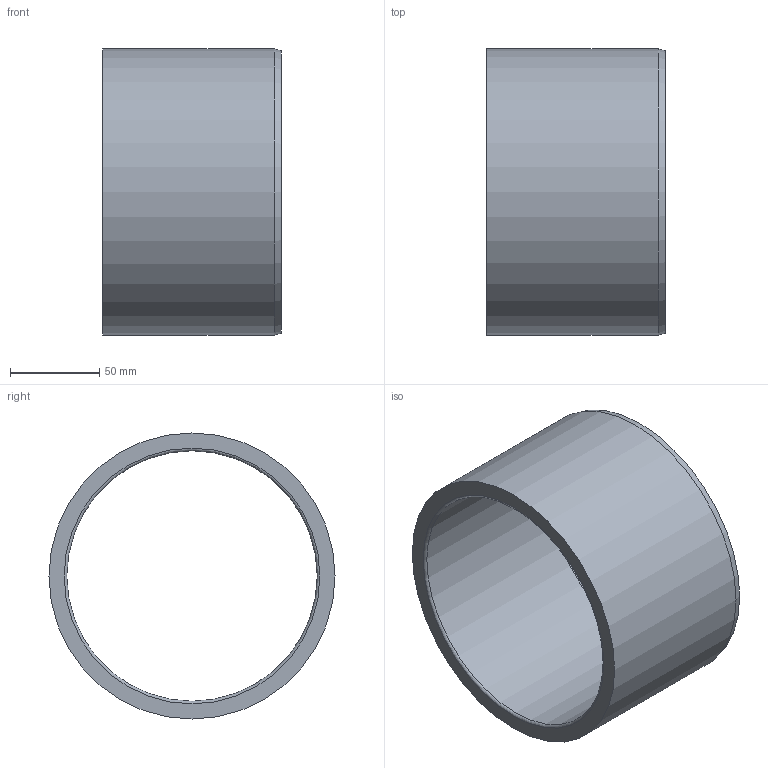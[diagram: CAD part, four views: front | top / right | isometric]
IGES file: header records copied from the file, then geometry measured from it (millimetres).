
Global section: file name: BG04.140160100.ipt; native system: Autodesk Inventor 2021; preprocessor: unknown; author: SM; date: 20211217.162940; units: millimetre
Bounding box: 100 x 160 x 160 mm (x, y, z)
Volume: 469739.4 mm3; surface area: 102630.1 mm2
Topology: 1 solids, 1 shells, 7 faces, 18 edges, 13 vertices
Faces by surface type: revolution 3, plane 2, cylinder 1, cone 1
Full cylindrical faces by diameter (mm): 160 x1
